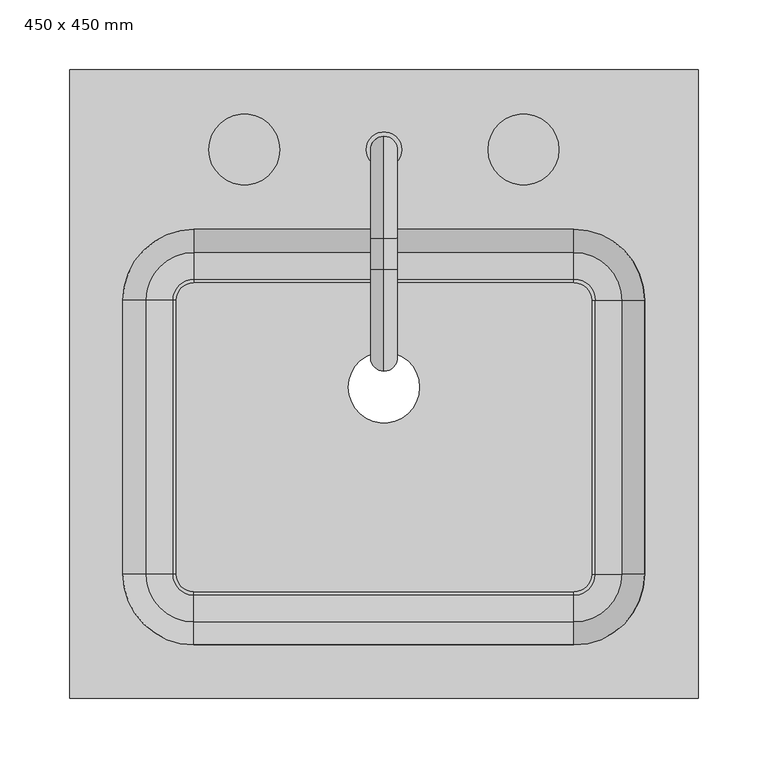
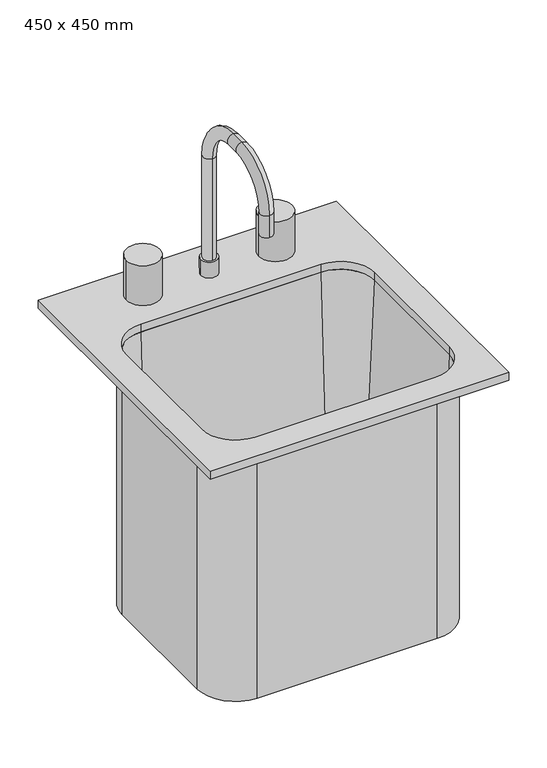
"""IFC4 building model written with IfcOpenShell, lengths in millimetres: flow terminal geometry, _Produtos_Arq_Bib_M_Pia da cozinha-Ilha : 450 x 450 mm."""

from ifc_helpers import new_model, si_unit, point, frame, frame_2d, origin, place, context, project, spatial, polyline, circle_curve, ellipse_curve, trimmed, segment, composite_curve, outline, extrude, source, transform, mapped, element, save
from ifc_brep_helpers import plane_surface, cylinder_surface, revolved_surface, advanced_brep


def flow_terminal_450_x_450_mm_54b253b9(model_context):
    return source(origin(), model_context, "Body", "SolidModel", [
        advanced_brep(
        [(164.4892406, 62.2454011, 500.0), (151.7892406, 74.9454011, 500.0), (151.7892406, 119.3954011, 500.0), (208.9392406, 62.2454011, 500.0), (151.7892406, 74.9454011, 508.625), (164.4892406, 62.2454011, 508.625), (167.0776588, 62.2454011, 508.625), (151.7892406, 77.5338193, 508.625), (186.1091086, 62.2454011, 526.8345128), (151.7892406, 96.5652691, 526.8345128), (167.0776588, -133.7545989, 508.625), (186.1091086, -133.7545989, 526.8345128), (151.7892406, -149.0430171, 508.625), (151.7892406, -168.0744669, 526.8345128), (-120.4107594, -149.0430171, 508.625), (-120.4107594, -168.0744669, 526.8345128), (-135.6991776, -133.7545989, 508.625), (-154.7306274, -133.7545989, 526.8345128), (-135.6991776, 62.2454011, 508.625), (-154.7306274, 62.2454011, 526.8345128), (-120.4107594, 77.5338193, 508.625), (-120.4107594, 96.5652691, 526.8345128), (202.5892406, 62.2454011, 900.0), (151.7892406, 113.0454011, 900.0), (208.9392406, 62.2454011, 900.0), (151.7892406, 119.3954011, 900.0), (164.4892406, -133.7545989, 500.0), (164.4892406, -133.7545989, 508.625), (202.5892406, -133.7545989, 900.0), (208.9392406, -133.7545989, 900.0), (208.9392406, -133.7545989, 500.0), (151.7892406, -146.4545989, 500.0), (151.7892406, -146.4545989, 508.625), (151.7892406, -184.5545989, 900.0), (151.7892406, -190.9045989, 900.0), (151.7892406, -190.9045989, 500.0), (-120.4107594, -146.4545989, 500.0), (-120.4107594, -146.4545989, 508.625), (-120.4107594, -184.5545989, 900.0), (-120.4107594, -190.9045989, 900.0), (-120.4107594, -190.9045989, 500.0), (-133.1107594, -133.7545989, 500.0), (-133.1107594, -133.7545989, 508.625), (-171.2107594, -133.7545989, 900.0), (-177.5607594, -133.7545989, 900.0), (-177.5607594, -133.7545989, 500.0), (-133.1107594, 62.2454011, 500.0), (-133.1107594, 62.2454011, 508.625), (-171.2107594, 62.2454011, 900.0), (-177.5607594, 62.2454011, 900.0), (-177.5607594, 62.2454011, 500.0), (-120.4107594, 74.9454011, 500.0), (-120.4107594, 74.9454011, 508.625), (-120.4107594, 113.0454011, 900.0), (-120.4107594, 119.3954011, 900.0), (-120.4107594, 119.3954011, 500.0)],
        [
            (0, 1, circle_curve(frame((151.7892406, 62.2454011, 500.0), z_axis=(0.0, 0.0, 1.0), x_axis=(0.0, 1.0, 0.0)), 12.7)),
            (1, 2),
            (2, 3, circle_curve(frame((151.7892406, 62.2454011, 500.0), z_axis=(0.0, 0.0, -1.0), x_axis=(0.0, 1.0, 0.0)), 57.15)),
            (3, 0),
            (4, 5, circle_curve(frame((151.7892406, 62.2454011, 508.625), z_axis=(0.0, 0.0, -1.0), x_axis=(0.0, 1.0, 0.0)), 12.7)),
            (5, 6),
            (6, 7, circle_curve(frame((151.7892406, 62.2454011, 508.625), z_axis=(0.0, 0.0, 1.0), x_axis=(0.0, 1.0, 0.0)), 15.2884182)),
            (7, 4),
            (6, 8, circle_curve(frame((167.0776588, 62.2454011, 527.675), z_axis=(0.0, -1.0, 0.0), x_axis=(1.0, 0.0, 0.0)), 19.05)),
            (8, 9, circle_curve(frame((151.7892406, 62.2454011, 526.8345128), z_axis=(0.0, 0.0, 1.0), x_axis=(0.0, 1.0, 0.0)), 34.319868)),
            (9, 7, circle_curve(frame((151.7892406, 77.5338193, 527.675), z_axis=(-1.0, 0.0, 0.0), x_axis=(0.0, 1.0, 0.0)), 19.05)),
            (6, 10),
            (10, 11, circle_curve(frame((167.0776588, -133.7545989, 527.675), z_axis=(0.0, -1.0, 0.0), x_axis=(1.0, 0.0, 0.0)), 19.05)),
            (11, 8),
            (10, 12, circle_curve(frame((151.7892406, -133.7545989, 508.625), z_axis=(0.0, 0.0, -1.0), x_axis=(1.0, 0.0, 0.0)), 15.2884182)),
            (12, 13, circle_curve(frame((151.7892406, -149.0430171, 527.675), z_axis=(-1.0, 0.0, 0.0), x_axis=(0.0, -1.0, 0.0)), 19.05)),
            (13, 11, circle_curve(frame((151.7892406, -133.7545989, 526.8345128), z_axis=(0.0, 0.0, 1.0), x_axis=(1.0, 0.0, 0.0)), 34.319868)),
            (12, 14),
            (14, 15, circle_curve(frame((-120.4107594, -149.0430171, 527.675), z_axis=(-1.0, 0.0, 0.0), x_axis=(0.0, -1.0, 0.0)), 19.05)),
            (15, 13),
            (14, 16, circle_curve(frame((-120.4107594, -133.7545989, 508.625), z_axis=(0.0, 0.0, -1.0), x_axis=(0.0, -1.0, 0.0)), 15.2884182)),
            (16, 17, circle_curve(frame((-135.6991776, -133.7545989, 527.675), z_axis=(0.0, 1.0, 0.0), x_axis=(-1.0, 0.0, 0.0)), 19.05)),
            (17, 15, circle_curve(frame((-120.4107594, -133.7545989, 526.8345128), z_axis=(0.0, 0.0, 1.0), x_axis=(0.0, -1.0, 0.0)), 34.319868)),
            (16, 18),
            (18, 19, circle_curve(frame((-135.6991776, 62.2454011, 527.675), z_axis=(0.0, 1.0, 0.0), x_axis=(-1.0, 0.0, 0.0)), 19.05)),
            (19, 17),
            (18, 20, circle_curve(frame((-120.4107594, 62.2454011, 508.625), z_axis=(0.0, 0.0, -1.0), x_axis=(-1.0, 0.0, 0.0)), 15.2884182)),
            (20, 21, circle_curve(frame((-120.4107594, 77.5338193, 527.675), z_axis=(1.0, 0.0, 0.0), x_axis=(0.0, 1.0, 0.0)), 19.05)),
            (21, 19, circle_curve(frame((-120.4107594, 62.2454011, 526.8345128), z_axis=(0.0, 0.0, 1.0), x_axis=(-1.0, 0.0, 0.0)), 34.319868)),
            (9, 21),
            (20, 7),
            (4, 1),
            (0, 5),
            (8, 22),
            (22, 23, circle_curve(frame((151.7892406, 62.2454011, 900.0), z_axis=(0.0, 0.0, 1.0), x_axis=(0.0, 1.0, 0.0)), 50.8)),
            (23, 9),
            (22, 24),
            (24, 25, circle_curve(frame((151.7892406, 62.2454011, 900.0), z_axis=(0.0, 0.0, 1.0), x_axis=(0.0, 1.0, 0.0)), 57.15)),
            (25, 23),
            (24, 3),
            (2, 25),
            (0, 26),
            (26, 27),
            (27, 5),
            (27, 10),
            (11, 28),
            (28, 22),
            (28, 29),
            (29, 24),
            (29, 30),
            (30, 3),
            (30, 26),
            (26, 31, circle_curve(frame((151.7892406, -133.7545989, 500.0), z_axis=(0.0, 0.0, -1.0), x_axis=(1.0, 0.0, 0.0)), 12.7)),
            (31, 32),
            (32, 27, circle_curve(frame((151.7892406, -133.7545989, 508.625), z_axis=(0.0, 0.0, 1.0), x_axis=(1.0, 0.0, 0.0)), 12.7)),
            (32, 12),
            (13, 33),
            (33, 28, circle_curve(frame((151.7892406, -133.7545989, 900.0), z_axis=(0.0, 0.0, 1.0), x_axis=(1.0, 0.0, 0.0)), 50.8)),
            (33, 34),
            (34, 29, circle_curve(frame((151.7892406, -133.7545989, 900.0), z_axis=(0.0, 0.0, 1.0), x_axis=(1.0, 0.0, 0.0)), 57.15)),
            (34, 35),
            (35, 30, circle_curve(frame((151.7892406, -133.7545989, 500.0), z_axis=(0.0, 0.0, 1.0), x_axis=(1.0, 0.0, 0.0)), 57.15)),
            (35, 31),
            (31, 36),
            (36, 37),
            (37, 32),
            (37, 14),
            (15, 38),
            (38, 33),
            (38, 39),
            (39, 34),
            (39, 40),
            (40, 35),
            (40, 36),
            (36, 41, circle_curve(frame((-120.4107594, -133.7545989, 500.0), z_axis=(0.0, 0.0, -1.0), x_axis=(0.0, -1.0, 0.0)), 12.7)),
            (41, 42),
            (42, 37, circle_curve(frame((-120.4107594, -133.7545989, 508.625), z_axis=(0.0, 0.0, 1.0), x_axis=(0.0, -1.0, 0.0)), 12.7)),
            (42, 16),
            (17, 43),
            (43, 38, circle_curve(frame((-120.4107594, -133.7545989, 900.0), z_axis=(0.0, 0.0, 1.0), x_axis=(0.0, -1.0, 0.0)), 50.8)),
            (43, 44),
            (44, 39, circle_curve(frame((-120.4107594, -133.7545989, 900.0), z_axis=(0.0, 0.0, 1.0), x_axis=(0.0, -1.0, 0.0)), 57.15)),
            (44, 45),
            (45, 40, circle_curve(frame((-120.4107594, -133.7545989, 500.0), z_axis=(0.0, 0.0, 1.0), x_axis=(0.0, -1.0, 0.0)), 57.15)),
            (45, 41),
            (41, 46),
            (46, 47),
            (47, 42),
            (47, 18),
            (19, 48),
            (48, 43),
            (48, 49),
            (49, 44),
            (49, 50),
            (50, 45),
            (50, 46),
            (46, 51, circle_curve(frame((-120.4107594, 62.2454011, 500.0), z_axis=(0.0, 0.0, -1.0), x_axis=(-1.0, 0.0, 0.0)), 12.7)),
            (51, 52),
            (52, 47, circle_curve(frame((-120.4107594, 62.2454011, 508.625), z_axis=(0.0, 0.0, 1.0), x_axis=(-1.0, 0.0, 0.0)), 12.7)),
            (52, 20),
            (21, 53),
            (53, 48, circle_curve(frame((-120.4107594, 62.2454011, 900.0), z_axis=(0.0, 0.0, 1.0), x_axis=(-1.0, 0.0, 0.0)), 50.8)),
            (53, 54),
            (54, 49, circle_curve(frame((-120.4107594, 62.2454011, 900.0), z_axis=(0.0, 0.0, 1.0), x_axis=(-1.0, 0.0, 0.0)), 57.15)),
            (54, 55),
            (55, 50, circle_curve(frame((-120.4107594, 62.2454011, 500.0), z_axis=(0.0, 0.0, 1.0), x_axis=(-1.0, 0.0, 0.0)), 57.15)),
            (55, 51),
            (4, 52),
            (51, 1),
            (23, 53),
            (25, 54),
            (2, 55),
        ],
        [
            plane_surface(frame((151.7892406, 62.2454011, 500.0), z_axis=(0.0, 0.0, -1.0), x_axis=(0.0, 1.0, 0.0))),
            plane_surface(frame((151.7892406, 62.2454011, 508.625), z_axis=(0.0, 0.0, 1.0), x_axis=(0.0, 1.0, 0.0))),
            revolved_surface(trimmed(ellipse_curve(frame((151.7892406, 77.5338193, 527.675), z_axis=(1.0, 0.0, 0.0), x_axis=(0.0, 1.0, 0.0)), 19.05, 19.05), [point((151.7892406, 77.5338193, 508.625))], [point((151.7892406, 96.5652691, 526.8345128))], True, "CARTESIAN"), (151.7892406, 62.2454011, 0.0), (0.0, 0.0, -1.0)),
            revolved_surface(polyline([(186.1276588, -133.7545989, 527.675), (186.1276588, 62.2454011, 527.675)]), (167.0776588, 62.2454011, 527.675), (0.0, -1.0, 0.0)),
            revolved_surface(trimmed(ellipse_curve(frame((167.0776588, -133.7545989, 527.675), z_axis=(0.0, -1.0, 0.0), x_axis=(1.0, 0.0, 0.0)), 19.05, 19.05), [point((167.0776588, -133.7545989, 508.625))], [point((186.1091086, -133.7545989, 526.8345128))], True, "CARTESIAN"), (151.7892406, -133.7545989, 0.0), (0.0, 0.0, -1.0)),
            revolved_surface(polyline([(-120.41075939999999, -168.0930171, 527.675), (151.7892406, -168.0930171, 527.675)]), (151.7892406, -149.0430171, 527.675), (-1.0, 0.0, 0.0)),
            revolved_surface(trimmed(ellipse_curve(frame((-120.4107594, -149.0430171, 527.675), z_axis=(-1.0, 0.0, 0.0), x_axis=(0.0, -1.0, 0.0)), 19.05, 19.05), [point((-120.4107594, -149.0430171, 508.625))], [point((-120.4107594, -168.0744669, 526.8345128))], True, "CARTESIAN"), (-120.4107594, -133.7545989, 0.0), (0.0, 0.0, -1.0)),
            revolved_surface(polyline([(-154.74917760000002, 62.24540110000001, 527.675), (-154.74917760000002, -133.7545989, 527.675)]), (-135.6991776, -133.7545989, 527.675), (0.0, 1.0, 0.0)),
            revolved_surface(trimmed(ellipse_curve(frame((-135.6991776, 62.2454011, 527.675), z_axis=(0.0, 1.0, 0.0), x_axis=(-1.0, 0.0, 0.0)), 19.05, 19.05), [point((-135.6991776, 62.2454011, 508.625))], [point((-154.7306274, 62.2454011, 526.8345128))], True, "CARTESIAN"), (-120.4107594, 62.2454011, 0.0), (0.0, 0.0, -1.0)),
            revolved_surface(polyline([(151.78924059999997, 96.5838193, 527.675), (-120.4107594, 96.5838193, 527.675)]), (-120.4107594, 77.5338193, 527.675), (1.0, 0.0, 0.0)),
            revolved_surface(polyline([(151.7892406, 74.9454011, 500.0), (151.7892406, 74.9454011, 508.625)]), (151.7892406, 62.2454011, 0.0), (0.0, 0.0, -1.0)),
            revolved_surface(polyline([(151.7892406, 96.5652691, 526.8345128), (151.7892406, 113.0454011, 900.0)]), (151.7892406, 62.2454011, 0.0), (0.0, 0.0, -1.0)),
            plane_surface(frame((151.7892406, 62.2454011, 900.0), z_axis=(0.0, 0.0, 1.0), x_axis=(0.0, 1.0, 0.0))),
            cylinder_surface(frame((151.7892406, 62.2454011, 0.0), z_axis=(0.0, 0.0, -1.0), x_axis=(0.0, 1.0, 0.0)), 57.15),
            plane_surface(frame((164.4892406, 62.2454011, 500.0), z_axis=(-1.0, 0.0, 0.0), x_axis=(0.0, -1.0, 0.0))),
            plane_surface(frame((164.4892406, 62.2454011, 508.625), z_axis=(0.0, 0.0, 1.0), x_axis=(0.0, -1.0, 0.0))),
            plane_surface(frame((186.1091086, 62.2454011, 526.8345128), z_axis=(-0.9990262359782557, 0.0, 0.04412006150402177), x_axis=(0.0, -1.0, 0.0))),
            plane_surface(frame((202.5892406, 62.2454011, 900.0), z_axis=(0.0, 0.0, 1.0), x_axis=(0.0, -1.0, 0.0))),
            plane_surface(frame((208.9392406, 62.2454011, 900.0), z_axis=(1.0, 0.0, 0.0), x_axis=(0.0, -1.0, 0.0))),
            plane_surface(frame((208.9392406, 62.2454011, 500.0), z_axis=(0.0, 0.0, -1.0), x_axis=(0.0, -1.0, 0.0))),
            revolved_surface(polyline([(164.4892406, -133.7545989, 500.0), (164.4892406, -133.7545989, 508.625)]), (151.7892406, -133.7545989, 0.0), (0.0, 0.0, -1.0)),
            plane_surface(frame((151.7892406, -133.7545989, 508.625), z_axis=(0.0, 0.0, 1.0), x_axis=(1.0, 0.0, 0.0))),
            revolved_surface(polyline([(186.1091086, -133.7545989, 526.8345128), (202.5892406, -133.7545989, 900.0)]), (151.7892406, -133.7545989, 0.0), (0.0, 0.0, -1.0)),
            plane_surface(frame((151.7892406, -133.7545989, 900.0), z_axis=(0.0, 0.0, 1.0), x_axis=(1.0, 0.0, 0.0))),
            cylinder_surface(frame((151.7892406, -133.7545989, 0.0), z_axis=(0.0, 0.0, -1.0), x_axis=(1.0, 0.0, 0.0)), 57.15),
            plane_surface(frame((151.7892406, -133.7545989, 500.0), z_axis=(0.0, 0.0, -1.0), x_axis=(1.0, 0.0, 0.0))),
            plane_surface(frame((151.7892406, -146.4545989, 500.0), z_axis=(0.0, 1.0, 0.0), x_axis=(-1.0, 0.0, 0.0))),
            plane_surface(frame((151.7892406, -146.4545989, 508.625), z_axis=(0.0, 0.0, 1.0), x_axis=(-1.0, 0.0, 0.0))),
            plane_surface(frame((151.7892406, -168.0744669, 526.8345128), z_axis=(0.0, 0.9990262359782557, 0.04412006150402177), x_axis=(-1.0, 0.0, 0.0))),
            plane_surface(frame((151.7892406, -184.5545989, 900.0), z_axis=(0.0, 0.0, 1.0), x_axis=(-1.0, 0.0, 0.0))),
            plane_surface(frame((151.7892406, -190.9045989, 900.0), z_axis=(0.0, -1.0, 0.0), x_axis=(-1.0, 0.0, 0.0))),
            plane_surface(frame((151.7892406, -190.9045989, 500.0), z_axis=(0.0, 0.0, -1.0), x_axis=(-1.0, 0.0, 0.0))),
            revolved_surface(polyline([(-120.4107594, -146.45459889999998, 500.0), (-120.4107594, -146.45459889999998, 508.625)]), (-120.4107594, -133.7545989, 0.0), (0.0, 0.0, -1.0)),
            plane_surface(frame((-120.4107594, -133.7545989, 508.625), z_axis=(0.0, 0.0, 1.0), x_axis=(0.0, -1.0, 0.0))),
            revolved_surface(polyline([(-120.4107594, -168.0744669, 526.8345128), (-120.4107594, -184.5545989, 900.0)]), (-120.4107594, -133.7545989, 0.0), (0.0, 0.0, -1.0)),
            plane_surface(frame((-120.4107594, -133.7545989, 900.0), z_axis=(0.0, 0.0, 1.0), x_axis=(0.0, -1.0, 0.0))),
            cylinder_surface(frame((-120.4107594, -133.7545989, 0.0), z_axis=(0.0, 0.0, -1.0), x_axis=(0.0, -1.0, 0.0)), 57.15),
            plane_surface(frame((-120.4107594, -133.7545989, 500.0), z_axis=(0.0, 0.0, -1.0), x_axis=(0.0, -1.0, 0.0))),
            plane_surface(frame((-133.1107594, -133.7545989, 500.0), z_axis=(1.0, 0.0, 0.0), x_axis=(0.0, 1.0, 0.0))),
            plane_surface(frame((-133.1107594, -133.7545989, 508.625), z_axis=(0.0, 0.0, 1.0), x_axis=(0.0, 1.0, 0.0))),
            plane_surface(frame((-154.7306274, -133.7545989, 526.8345128), z_axis=(0.9990262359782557, 0.0, 0.04412006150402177), x_axis=(0.0, 1.0, 0.0))),
            plane_surface(frame((-171.2107594, -133.7545989, 900.0), z_axis=(0.0, 0.0, 1.0), x_axis=(0.0, 1.0, 0.0))),
            plane_surface(frame((-177.5607594, -133.7545989, 900.0), z_axis=(-1.0, 0.0, 0.0), x_axis=(0.0, 1.0, 0.0))),
            plane_surface(frame((-177.5607594, -133.7545989, 500.0), z_axis=(0.0, 0.0, -1.0), x_axis=(0.0, 1.0, 0.0))),
            revolved_surface(polyline([(-133.1107594, 62.2454011, 500.0), (-133.1107594, 62.2454011, 508.625)]), (-120.4107594, 62.2454011, 0.0), (0.0, 0.0, -1.0)),
            plane_surface(frame((-120.4107594, 62.2454011, 508.625), z_axis=(0.0, 0.0, 1.0), x_axis=(-1.0, 0.0, 0.0))),
            revolved_surface(polyline([(-154.7306274, 62.2454011, 526.8345128), (-171.2107594, 62.2454011, 900.0)]), (-120.4107594, 62.2454011, 0.0), (0.0, 0.0, -1.0)),
            plane_surface(frame((-120.4107594, 62.2454011, 900.0), z_axis=(0.0, 0.0, 1.0), x_axis=(-1.0, 0.0, 0.0))),
            cylinder_surface(frame((-120.4107594, 62.2454011, 0.0), z_axis=(0.0, 0.0, -1.0), x_axis=(-1.0, 0.0, 0.0)), 57.15),
            plane_surface(frame((-120.4107594, 62.2454011, 500.0), z_axis=(0.0, 0.0, -1.0), x_axis=(-1.0, 0.0, 0.0))),
            plane_surface(frame((-120.4107594, 74.9454011, 500.0), z_axis=(0.0, -1.0, 0.0), x_axis=(1.0, 0.0, 0.0))),
            plane_surface(frame((-120.4107594, 74.9454011, 508.625), z_axis=(0.0, 0.0, 1.0), x_axis=(1.0, 0.0, 0.0))),
            plane_surface(frame((-120.4107594, 96.5652691, 526.8345128), z_axis=(0.0, -0.9990262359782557, 0.04412006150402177), x_axis=(1.0, 0.0, 0.0))),
            plane_surface(frame((-120.4107594, 113.0454011, 900.0), z_axis=(0.0, 0.0, 1.0), x_axis=(1.0, 0.0, 0.0))),
            plane_surface(frame((-120.4107594, 119.3954011, 900.0), z_axis=(0.0, 1.0, 0.0), x_axis=(1.0, 0.0, 0.0))),
            plane_surface(frame((-120.4107594, 119.3954011, 500.0), z_axis=(0.0, 0.0, -1.0), x_axis=(1.0, 0.0, 0.0))),
        ],
        [
            (0, [[1, 2, 3, 4]]),
            (1, [[5, 6, 7, 8]]),
            (2, [[-7, 9, 10, 11]]),
            (3, [[-9, 12, 13, 14]]),
            (4, [[-13, 15, 16, 17]]),
            (5, [[-16, 18, 19, 20]]),
            (6, [[-19, 21, 22, 23]]),
            (7, [[-22, 24, 25, 26]]),
            (8, [[-25, 27, 28, 29]]),
            (9, [[-11, 30, -28, 31]]),
            (10, [[-5, 32, -1, 33]]),
            (11, [[-10, 34, 35, 36]]),
            (12, [[-35, 37, 38, 39]]),
            (13, [[-38, 40, -3, 41]]),
            (14, [[-33, 42, 43, 44]]),
            (15, [[-6, -44, 45, -12]]),
            (16, [[-34, -14, 46, 47]]),
            (17, [[-37, -47, 48, 49]]),
            (18, [[-40, -49, 50, 51]]),
            (19, [[-4, -51, 52, -42]]),
            (20, [[-43, 53, 54, 55]]),
            (21, [[-45, -55, 56, -15]]),
            (22, [[-46, -17, 57, 58]]),
            (23, [[-48, -58, 59, 60]]),
            (24, [[-50, -60, 61, 62]]),
            (25, [[-52, -62, 63, -53]]),
            (26, [[-54, 64, 65, 66]]),
            (27, [[-56, -66, 67, -18]]),
            (28, [[-57, -20, 68, 69]]),
            (29, [[-59, -69, 70, 71]]),
            (30, [[-61, -71, 72, 73]]),
            (31, [[-63, -73, 74, -64]]),
            (32, [[-65, 75, 76, 77]]),
            (33, [[-67, -77, 78, -21]]),
            (34, [[-68, -23, 79, 80]]),
            (35, [[-70, -80, 81, 82]]),
            (36, [[-72, -82, 83, 84]]),
            (37, [[-74, -84, 85, -75]]),
            (38, [[-76, 86, 87, 88]]),
            (39, [[-78, -88, 89, -24]]),
            (40, [[-79, -26, 90, 91]]),
            (41, [[-81, -91, 92, 93]]),
            (42, [[-83, -93, 94, 95]]),
            (43, [[-85, -95, 96, -86]]),
            (44, [[-87, 97, 98, 99]]),
            (45, [[-89, -99, 100, -27]]),
            (46, [[-90, -29, 101, 102]]),
            (47, [[-92, -102, 103, 104]]),
            (48, [[-94, -104, 105, 106]]),
            (49, [[-96, -106, 107, -97]]),
            (50, [[-32, 108, -98, 109]]),
            (51, [[-8, -31, -100, -108]]),
            (52, [[-36, 110, -101, -30]]),
            (53, [[-39, 111, -103, -110]]),
            (54, [[-41, 112, -105, -111]]),
            (55, [[-2, -109, -107, -112]]),
        ],
    ),
        advanced_brep(
        [(41.0892406, 0.0, 684.1), (-9.7107594, 0.0, 684.1), (-9.7107594, 0.0, 508.625), (41.0892406, 0.0, 508.625), (151.7892406, 74.9454011, 684.1), (-120.4107594, 74.9454011, 684.1), (-133.1107594, 62.2454011, 684.1), (-133.1107594, -133.7545989, 684.1), (-120.4107594, -146.4545989, 684.1), (151.7892406, -146.4545989, 684.1), (164.4892406, -133.7545989, 684.1), (164.4892406, 62.2454011, 684.1), (151.7892406, 74.9454011, 508.625), (164.4892406, 62.2454011, 508.625), (164.4892406, -133.7545989, 508.625), (151.7892406, -146.4545989, 508.625), (-120.4107594, -146.4545989, 508.625), (-133.1107594, -133.7545989, 508.625), (-133.1107594, 62.2454011, 508.625), (-120.4107594, 74.9454011, 508.625)],
        [
            (0, 1, circle_curve(frame((15.6892406, 0.0, 684.1), z_axis=(0.0, 0.0, 1.0), x_axis=(1.0, 0.0, 0.0)), 25.4)),
            (1, 2),
            (2, 3, circle_curve(frame((15.6892406, 0.0, 508.625), z_axis=(0.0, 0.0, -1.0), x_axis=(1.0, 0.0, 0.0)), 25.4)),
            (3, 0),
            (1, 0, circle_curve(frame((15.6892406, 0.0, 684.1), z_axis=(0.0, 0.0, 1.0), x_axis=(1.0, 0.0, 0.0)), 25.4)),
            (3, 2, circle_curve(frame((15.6892406, 0.0, 508.625), z_axis=(0.0, 0.0, -1.0), x_axis=(1.0, 0.0, 0.0)), 25.4)),
            (4, 5),
            (5, 6, circle_curve(frame((-120.4107594, 62.2454011, 684.1), z_axis=(0.0, 0.0, 1.0), x_axis=(1.0, 0.0, 0.0)), 12.7)),
            (6, 7),
            (7, 8, circle_curve(frame((-120.4107594, -133.7545989, 684.1), z_axis=(0.0, 0.0, 1.0), x_axis=(1.0, 0.0, 0.0)), 12.7)),
            (8, 9),
            (9, 10, circle_curve(frame((151.7892406, -133.7545989, 684.1), z_axis=(0.0, 0.0, 1.0), x_axis=(1.0, 0.0, 0.0)), 12.7)),
            (10, 11),
            (11, 4, circle_curve(frame((151.7892406, 62.2454011, 684.1), z_axis=(0.0, 0.0, 1.0), x_axis=(1.0, 0.0, 0.0)), 12.7)),
            (12, 13, circle_curve(frame((151.7892406, 62.2454011, 508.625), z_axis=(0.0, 0.0, -1.0), x_axis=(1.0, 0.0, 0.0)), 12.7)),
            (13, 14),
            (14, 15, circle_curve(frame((151.7892406, -133.7545989, 508.625), z_axis=(0.0, 0.0, -1.0), x_axis=(1.0, 0.0, 0.0)), 12.7)),
            (15, 16),
            (16, 17, circle_curve(frame((-120.4107594, -133.7545989, 508.625), z_axis=(0.0, 0.0, -1.0), x_axis=(1.0, 0.0, 0.0)), 12.7)),
            (17, 18),
            (18, 19, circle_curve(frame((-120.4107594, 62.2454011, 508.625), z_axis=(0.0, 0.0, -1.0), x_axis=(1.0, 0.0, 0.0)), 12.7)),
            (19, 12),
            (4, 12),
            (19, 5),
            (18, 6),
            (17, 7),
            (16, 8),
            (15, 9),
            (14, 10),
            (13, 11),
        ],
        [
            revolved_surface(polyline([(41.0892406, 0.0, 508.625), (41.0892406, 0.0, 684.1)]), (15.6892406, 0.0, 0.0), (0.0, 0.0, -1.0)),
            plane_surface(frame((-120.4107594, 74.9454011, 684.1), z_axis=(0.0, 0.0, 1.0), x_axis=(-1.0, 0.0, 0.0))),
            plane_surface(frame((-120.4107594, 74.9454011, 508.625), z_axis=(0.0, 0.0, -1.0), x_axis=(1.0, 0.0, 0.0))),
            plane_surface(frame((151.7892406, 74.9454011, 684.1), z_axis=(0.0, 1.0, 0.0), x_axis=(0.0, 0.0, -1.0))),
            cylinder_surface(frame((-120.4107594, 62.2454011, 508.625), z_axis=(0.0, 0.0, 1.0), x_axis=(1.0, 0.0, 0.0)), 12.7),
            plane_surface(frame((-133.1107594, 62.2454011, 684.1), z_axis=(-1.0, 0.0, 0.0), x_axis=(0.0, 0.0, -1.0))),
            cylinder_surface(frame((-120.4107594, -133.7545989, 508.625), z_axis=(0.0, 0.0, 1.0), x_axis=(1.0, 0.0, 0.0)), 12.7),
            plane_surface(frame((-120.4107594, -146.4545989, 684.1), z_axis=(0.0, -1.0, 0.0), x_axis=(0.0, 0.0, -1.0))),
            cylinder_surface(frame((151.7892406, -133.7545989, 508.625), z_axis=(0.0, 0.0, 1.0), x_axis=(1.0, 0.0, 0.0)), 12.7),
            plane_surface(frame((164.4892406, -133.7545989, 684.1), z_axis=(1.0, 0.0, 0.0), x_axis=(0.0, 0.0, -1.0))),
            cylinder_surface(frame((151.7892406, 62.2454011, 508.625), z_axis=(0.0, 0.0, 1.0), x_axis=(1.0, 0.0, 0.0)), 12.7),
        ],
        [
            (0, [[1, 2, 3, 4]]),
            (0, [[5, -4, 6, -2]]),
            (1, [[7, 8, 9, 10, 11, 12, 13, 14], [-1, -5]]),
            (2, [[15, 16, 17, 18, 19, 20, 21, 22], [-6, -3]]),
            (3, [[-7, 23, -22, 24]]),
            (4, [[-8, -24, -21, 25]]),
            (5, [[-9, -25, -20, 26]]),
            (6, [[-10, -26, -19, 27]]),
            (7, [[-11, -27, -18, 28]]),
            (8, [[-12, -28, -17, 29]]),
            (9, [[-13, -29, -16, 30]]),
            (10, [[-14, -30, -15, -23]]),
        ],
    ),
        advanced_brep(
        [(2.9892406, 170.1954011, 912.7), (28.3892406, 170.1954011, 912.7), (15.6892406, 179.7204011, 1100.025), (15.6892406, 160.6704011, 1100.025), (15.6892406, 160.6704011, 938.1), (15.6892406, 179.7204011, 938.1), (15.6892406, 106.6954011, 1173.05), (15.6892406, 106.6954011, 1154.0), (15.6892406, 84.4704011, 1173.05), (15.6892406, 84.4704011, 1154.0), (15.6892406, 11.4454011, 1100.025), (15.6892406, 30.4954011, 1100.025), (15.6892406, 11.4454011, 1065.1), (15.6892406, 30.4954011, 1065.1), (2.9892406, 170.1954011, 938.1), (28.3892406, 170.1954011, 938.1)],
        [
            (0, 1, circle_curve(frame((15.6892406, 170.1954011, 912.7), z_axis=(0.0, 0.0, -1.0), x_axis=(1.0, 0.0, 0.0)), 12.7)),
            (1, 0, circle_curve(frame((15.6892406, 170.1954011, 912.7), z_axis=(0.0, 0.0, -1.0), x_axis=(1.0, 0.0, 0.0)), 12.7)),
            (2, 3, circle_curve(frame((15.6892406, 170.1954011, 1100.025), z_axis=(0.0, 0.0, -1.0), x_axis=(0.0, -1.0, 0.0)), 9.525)),
            (3, 4),
            (4, 5, circle_curve(frame((15.6892406, 170.1954011, 938.1), z_axis=(0.0, 0.0, 1.0), x_axis=(0.0, -1.0, 0.0)), 9.525)),
            (5, 2),
            (3, 2, circle_curve(frame((15.6892406, 170.1954011, 1100.025), z_axis=(0.0, 0.0, -1.0), x_axis=(0.0, -1.0, 0.0)), 9.525)),
            (5, 4, circle_curve(frame((15.6892406, 170.1954011, 938.1), z_axis=(0.0, 0.0, 1.0), x_axis=(0.0, -1.0, 0.0)), 9.525)),
            (2, 6, circle_curve(frame((15.6892406, 106.6954011, 1100.025), z_axis=(1.0, 0.0, 0.0), x_axis=(0.0, 1.0, 0.0)), 73.025)),
            (6, 7, circle_curve(frame((15.6892406, 106.6954011, 1163.525), z_axis=(0.0, 1.0, 0.0), x_axis=(0.0, 0.0, -1.0)), 9.525)),
            (7, 3, circle_curve(frame((15.6892406, 106.6954011, 1100.025), z_axis=(-1.0, 0.0, 0.0), x_axis=(0.0, 1.0, 0.0)), 53.975)),
            (7, 6, circle_curve(frame((15.6892406, 106.6954011, 1163.525), z_axis=(0.0, 1.0, 0.0), x_axis=(0.0, 0.0, -1.0)), 9.525)),
            (6, 8),
            (8, 9, circle_curve(frame((15.6892406, 84.4704011, 1163.525), z_axis=(0.0, 1.0, 0.0), x_axis=(0.0, 0.0, -1.0)), 9.525)),
            (9, 7),
            (9, 8, circle_curve(frame((15.6892406, 84.4704011, 1163.525), z_axis=(0.0, 1.0, 0.0), x_axis=(0.0, 0.0, -1.0)), 9.525)),
            (8, 10, circle_curve(frame((15.6892406, 84.4704011, 1100.025), z_axis=(1.0, 0.0, 0.0), x_axis=(0.0, 0.0, 1.0)), 73.025)),
            (10, 11, circle_curve(frame((15.6892406, 20.9704011, 1100.025), z_axis=(0.0, 0.0, 1.0), x_axis=(0.0, 1.0, 0.0)), 9.525)),
            (11, 9, circle_curve(frame((15.6892406, 84.4704011, 1100.025), z_axis=(-1.0, 0.0, 0.0), x_axis=(0.0, 0.0, 1.0)), 53.975)),
            (11, 10, circle_curve(frame((15.6892406, 20.9704011, 1100.025), z_axis=(0.0, 0.0, 1.0), x_axis=(0.0, 1.0, 0.0)), 9.525)),
            (12, 13, circle_curve(frame((15.6892406, 20.9704011, 1065.1), z_axis=(0.0, 0.0, -1.0), x_axis=(0.0, 1.0, 0.0)), 9.525)),
            (13, 12, circle_curve(frame((15.6892406, 20.9704011, 1065.1), z_axis=(0.0, 0.0, -1.0), x_axis=(0.0, 1.0, 0.0)), 9.525)),
            (10, 12),
            (13, 11),
            (14, 15, circle_curve(frame((15.6892406, 170.1954011, 938.1), z_axis=(0.0, 0.0, 1.0), x_axis=(1.0, 0.0, 0.0)), 12.7)),
            (15, 14, circle_curve(frame((15.6892406, 170.1954011, 938.1), z_axis=(0.0, 0.0, 1.0), x_axis=(1.0, 0.0, 0.0)), 12.7)),
            (14, 0),
            (1, 15),
        ],
        [
            plane_surface(frame((15.6892406, 160.6704011, 912.7), z_axis=(0.0, 0.0, -1.0), x_axis=(1.0, 0.0, 0.0))),
            cylinder_surface(frame((15.6892406, 170.1954011, 912.7), z_axis=(0.0, 0.0, -1.0), x_axis=(0.0, -1.0, 0.0)), 9.525),
            revolved_surface(trimmed(ellipse_curve(frame((15.6892406, 170.1954011, 1100.025), z_axis=(0.0, 0.0, -1.0), x_axis=(0.0, -1.0, 0.0)), 9.525, 9.525), [point((15.6892406, 179.7204011, 1100.025))], [point((15.6892406, 160.6704011, 1100.025))], True, "CARTESIAN"), (15.6892406, 106.6954011, 1100.025), (1.0, 0.0, 0.0)),
            revolved_surface(trimmed(ellipse_curve(frame((15.6892406, 170.1954011, 1100.025), z_axis=(0.0, 0.0, -1.0), x_axis=(0.0, -1.0, 0.0)), 9.525, 9.525), [point((15.6892406, 160.6704011, 1100.025))], [point((15.6892406, 179.7204011, 1100.025))], True, "CARTESIAN"), (15.6892406, 106.6954011, 1100.025), (1.0, 0.0, 0.0)),
            cylinder_surface(frame((15.6892406, 106.6954011, 1163.525), z_axis=(0.0, 1.0, 0.0), x_axis=(0.0, 0.0, -1.0)), 9.525),
            revolved_surface(trimmed(ellipse_curve(frame((15.6892406, 84.4704011, 1163.525), z_axis=(0.0, 1.0, 0.0), x_axis=(0.0, 0.0, -1.0)), 9.525, 9.525), [point((15.6892406, 84.4704011, 1173.05))], [point((15.6892406, 84.4704011, 1154.0))], True, "CARTESIAN"), (15.6892406, 84.4704011, 1100.025), (1.0, 0.0, 0.0)),
            revolved_surface(trimmed(ellipse_curve(frame((15.6892406, 84.4704011, 1163.525), z_axis=(0.0, 1.0, 0.0), x_axis=(0.0, 0.0, -1.0)), 9.525, 9.525), [point((15.6892406, 84.4704011, 1154.0))], [point((15.6892406, 84.4704011, 1173.05))], True, "CARTESIAN"), (15.6892406, 84.4704011, 1100.025), (1.0, 0.0, 0.0)),
            plane_surface(frame((15.6892406, 11.4454011, 1065.1), z_axis=(0.0, 0.0, -1.0), x_axis=(-1.0, 0.0, 0.0))),
            cylinder_surface(frame((15.6892406, 20.9704011, 1100.025), z_axis=(0.0, 0.0, 1.0), x_axis=(0.0, 1.0, 0.0)), 9.525),
            plane_surface(frame((28.3892406, 170.1954011, 938.1), z_axis=(0.0, 0.0, 1.0), x_axis=(0.0, 1.0, 0.0))),
            cylinder_surface(frame((15.6892406, 170.1954011, 912.7), z_axis=(0.0, 0.0, 1.0), x_axis=(1.0, 0.0, 0.0)), 12.7),
        ],
        [
            (0, [[1, 2]]),
            (1, [[3, 4, 5, 6]]),
            (1, [[7, -6, 8, -4]]),
            (2, [[-3, 9, 10, 11]]),
            (3, [[-7, -11, 12, -9]]),
            (4, [[-10, 13, 14, 15]]),
            (4, [[-12, -15, 16, -13]]),
            (5, [[-14, 17, 18, 19]]),
            (6, [[-16, -19, 20, -17]]),
            (7, [[21, 22]]),
            (8, [[-18, 23, -22, 24]]),
            (8, [[-20, -24, -21, -23]]),
            (9, [[25, 26], [-5, -8]]),
            (10, [[-25, 27, -2, 28]]),
            (10, [[-26, -28, -1, -27]]),
        ],
    ),
        extrude(outline(composite_curve([segment(trimmed(circle_curve(frame_2d((-84.3107594, 170.1954011)), 25.4), [point((-109.7107594, 170.1954011))], [point((-58.9107594, 170.1954011))], False, "CARTESIAN"), True, "CONTINUOUS"), segment(trimmed(circle_curve(frame_2d((-84.3107594, 170.1954011)), 25.4), [point((-58.9107594, 170.1954011))], [point((-109.7107594, 170.1954011))], False, "CARTESIAN"), True, "CONTINUOUS")], self_intersect=False)), frame((0.0, 0.0, 912.7), z_axis=(0.0, 0.0, 1.0), x_axis=(1.0, 0.0, 0.0)), (0.0, 0.0, 1.0), 63.5),
        extrude(outline(composite_curve([segment(trimmed(circle_curve(frame_2d((115.6892406, 170.1954011)), 25.4), [point((90.2892406, 170.1954011))], [point((141.0892406, 170.1954011))], False, "CARTESIAN"), True, "CONTINUOUS"), segment(trimmed(circle_curve(frame_2d((115.6892406, 170.1954011)), 25.4), [point((141.0892406, 170.1954011))], [point((90.2892406, 170.1954011))], False, "CARTESIAN"), True, "CONTINUOUS")], self_intersect=False)), frame((0.0, 0.0, 912.7), z_axis=(0.0, 0.0, 1.0), x_axis=(1.0, 0.0, 0.0)), (0.0, 0.0, 1.0), 63.5),
        extrude(outline(polyline([(240.6892406, 227.3454011), (240.6892406, -222.6545989), (-209.3107594, -222.6545989), (-209.3107594, 227.3454011), (240.6892406, 227.3454011)]), holes=[composite_curve([segment(polyline([(151.7892406, 113.0454011), (-120.4107594, 113.0454011)]), True, "CONTINUOUS"), segment(trimmed(circle_curve(frame_2d((-120.4107594, 62.2454011)), 50.8), [point((-120.4107594, 113.0454011))], [point((-171.2107594, 62.2454011))], True, "CARTESIAN"), True, "CONTINUOUS"), segment(polyline([(-171.2107594, 62.2454011), (-171.2107594, -133.7545989)]), True, "CONTINUOUS"), segment(trimmed(circle_curve(frame_2d((-120.4107594, -133.7545989)), 50.8), [point((-171.2107594, -133.7545989))], [point((-120.4107594, -184.5545989))], True, "CARTESIAN"), True, "CONTINUOUS"), segment(polyline([(-120.4107594, -184.5545989), (151.7892406, -184.5545989)]), True, "CONTINUOUS"), segment(trimmed(circle_curve(frame_2d((151.7892406, -133.7545989)), 50.8), [point((151.7892406, -184.5545989))], [point((202.5892406, -133.7545989))], True, "CARTESIAN"), True, "CONTINUOUS"), segment(polyline([(202.5892406, -133.7545989), (202.5892406, 62.2454011)]), True, "CONTINUOUS"), segment(trimmed(circle_curve(frame_2d((151.7892406, 62.2454011)), 50.8), [point((202.5892406, 62.2454011))], [point((151.7892406, 113.0454011))], True, "CARTESIAN"), True, "CONTINUOUS")], self_intersect=False)]), frame((0.0, 0.0, 900.0), z_axis=(0.0, 0.0, 1.0), x_axis=(1.0, 0.0, 0.0)), (0.0, 0.0, 1.0), 12.7),
    ])


if __name__ == "__main__":
    model = new_model("IFC4")
    model_context = context("Model", 3, world=origin())
    ifc_project = project(units=[si_unit("LENGTHUNIT", "METRE", prefix="MILLI")], contexts=[model_context])
    site = spatial("IfcSite", under=ifc_project)
    building = spatial("IfcBuilding", under=site)
    placement = place(None, origin())
    flow_terminal_450_x_450_mm_shape = flow_terminal_450_x_450_mm_54b253b9(model_context)
    element("IfcFlowTerminal", 1, ObjectType="_Produtos_Arq_Bib_M_Pia da cozinha-Ilha : 450 x 450 mm", at=placement, inside=building, context=model_context, shape_type="MappedRepresentation", body=[
        mapped(flow_terminal_450_x_450_mm_shape, transform((0.0, 0.0, 0.0), x_axis=(1.0, 0.0, 0.0), y_axis=(0.0, 1.0, 0.0), z_axis=(0.0, 0.0, 1.0))),
    ])
    save(model, "model.ifc")
